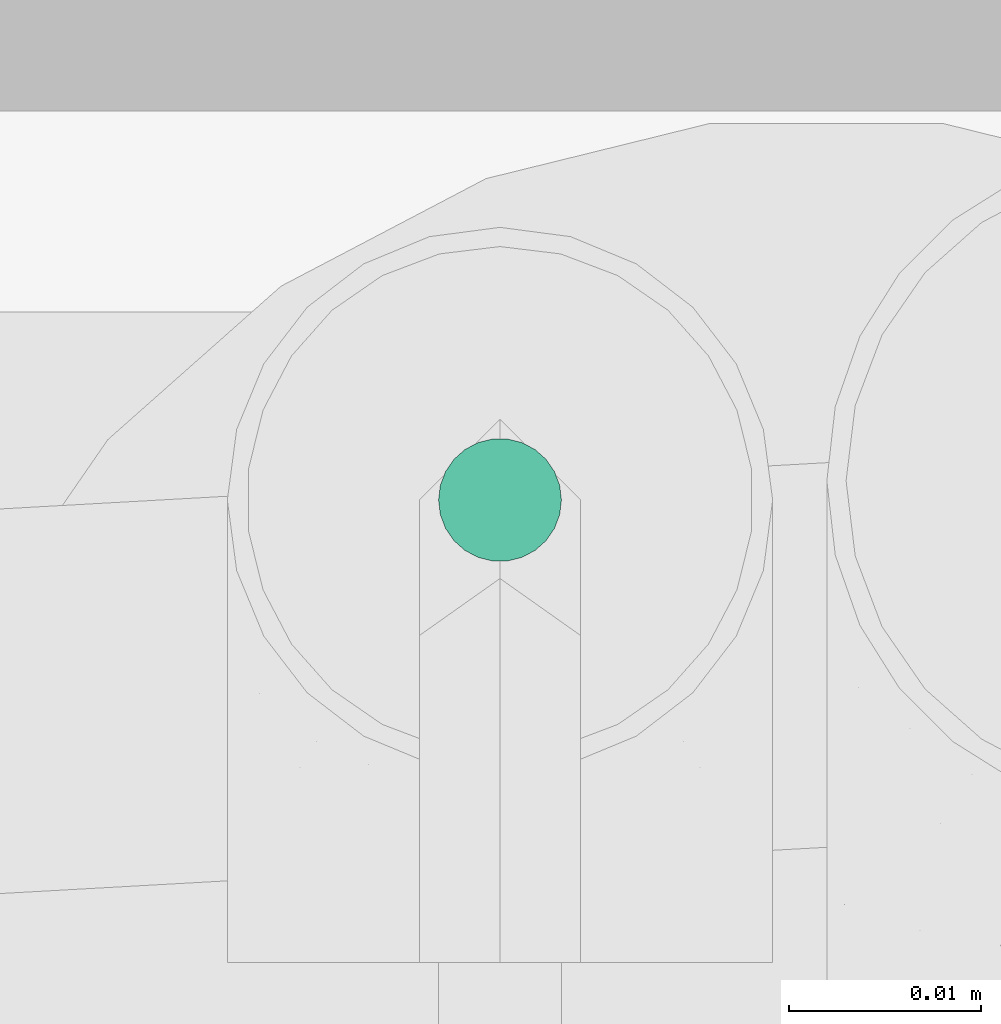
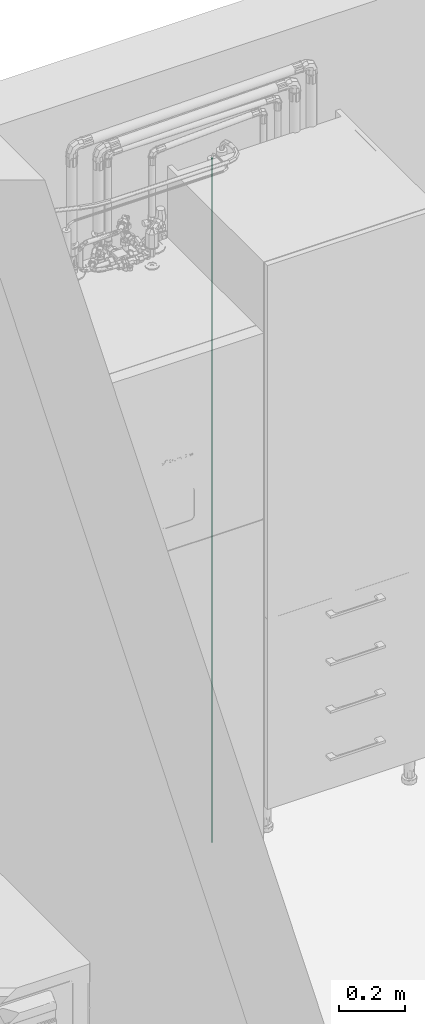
# One storey, part 16 of 30: 1 flow segment.
"""IFC2X3 building model written with IfcOpenShell, lengths in metres."""

from ifc_helpers import new_model, entity, si_unit, converted_unit, derived_unit, direction, frame, origin, origin_2d_with_axis, place, context, subcontext, project, spatial, circle, extrude, type_object, element, save


model = new_model("IFC2X3")

# Units and contexts
model_context = context("Model", 3, precision=1e-05, world=origin(), true_north=direction((6.123031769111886e-17, 1.0)))
body_context = subcontext(model_context, "Body", "Model", "MODEL_VIEW")
ifc_project = project(units=[si_unit("LENGTHUNIT", "METRE"), si_unit("AREAUNIT", "SQUARE_METRE"), si_unit("VOLUMEUNIT", "CUBIC_METRE"), converted_unit("PLANEANGLEUNIT", "DEGREE", entity("IfcPlaneAngleMeasure", 0.017453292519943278), si_unit("PLANEANGLEUNIT", "RADIAN"), dimensions=[0, 0, 0, 0, 0, 0, 0]), si_unit("MASSUNIT", "GRAM", prefix="KILO"), derived_unit("MASSDENSITYUNIT", [(si_unit("MASSUNIT", "GRAM", prefix="KILO"), 1), (si_unit("LENGTHUNIT", "METRE"), -3)]), derived_unit("IONCONCENTRATIONUNIT", [(si_unit("MASSUNIT", "GRAM", prefix="KILO"), 1), (si_unit("LENGTHUNIT", "METRE"), -3)]), derived_unit("MOMENTOFINERTIAUNIT", [(si_unit("LENGTHUNIT", "METRE"), 4)]), si_unit("TIMEUNIT", "SECOND"), si_unit("FREQUENCYUNIT", "HERTZ"), si_unit("THERMODYNAMICTEMPERATUREUNIT", "DEGREE_CELSIUS"), derived_unit("THERMALTRANSMITTANCEUNIT", [(si_unit("MASSUNIT", "GRAM", prefix="KILO"), 1), (si_unit("THERMODYNAMICTEMPERATUREUNIT", "KELVIN"), -1), (si_unit("TIMEUNIT", "SECOND"), -3)]), derived_unit("THERMALCONDUCTANCEUNIT", [(si_unit("MASSUNIT", "GRAM", prefix="KILO"), 1), (si_unit("THERMODYNAMICTEMPERATUREUNIT", "KELVIN"), -1), (si_unit("TIMEUNIT", "SECOND"), -3), (si_unit("LENGTHUNIT", "METRE"), 1)]), derived_unit("VOLUMETRICFLOWRATEUNIT", [(si_unit("LENGTHUNIT", "METRE", prefix="DECI"), 3), (si_unit("TIMEUNIT", "SECOND"), -1)]), derived_unit("MASSFLOWRATEUNIT", [(si_unit("MASSUNIT", "GRAM", prefix="KILO"), 1), (si_unit("TIMEUNIT", "SECOND"), -1)]), derived_unit("ROTATIONALFREQUENCYUNIT", [(si_unit("TIMEUNIT", "SECOND"), -1)]), si_unit("ELECTRICCURRENTUNIT", "AMPERE"), si_unit("ELECTRICVOLTAGEUNIT", "VOLT"), si_unit("POWERUNIT", "WATT"), si_unit("FORCEUNIT", "NEWTON", prefix="KILO"), si_unit("ILLUMINANCEUNIT", "LUX"), si_unit("LUMINOUSFLUXUNIT", "LUMEN"), si_unit("LUMINOUSINTENSITYUNIT", "CANDELA"), si_unit("ENERGYUNIT", "JOULE"), derived_unit("USERDEFINED", [(si_unit("MASSUNIT", "GRAM", prefix="KILO"), -1), (si_unit("LENGTHUNIT", "METRE"), -2), (si_unit("TIMEUNIT", "SECOND"), 3), (si_unit("LUMINOUSFLUXUNIT", "LUMEN"), 1)]), derived_unit("USERDEFINED", [(si_unit("MASSUNIT", "GRAM", prefix="KILO"), 1), (si_unit("TIMEUNIT", "SECOND"), -3), (si_unit("LENGTHUNIT", "METRE"), 3), (si_unit("ELECTRICCURRENTUNIT", "AMPERE"), -2)]), derived_unit("SOUNDPOWERUNIT", [(si_unit("MASSUNIT", "GRAM", prefix="KILO"), 1), (si_unit("TIMEUNIT", "SECOND"), -3), (si_unit("LENGTHUNIT", "METRE"), 2)]), derived_unit("SOUNDPRESSUREUNIT", [(si_unit("MASSUNIT", "GRAM", prefix="KILO"), 1), (si_unit("LENGTHUNIT", "METRE"), -1), (si_unit("TIMEUNIT", "SECOND"), -2)]), derived_unit("LINEARVELOCITYUNIT", [(si_unit("LENGTHUNIT", "METRE"), 1), (si_unit("TIMEUNIT", "SECOND"), -1)]), si_unit("PRESSUREUNIT", "PASCAL"), derived_unit("USERDEFINED", [(si_unit("MASSUNIT", "GRAM", prefix="KILO"), 1), (si_unit("LENGTHUNIT", "METRE"), -2), (si_unit("TIMEUNIT", "SECOND"), -2)]), derived_unit("LINEARFORCEUNIT", [(si_unit("MASSUNIT", "GRAM", prefix="KILO"), 1), (si_unit("TIMEUNIT", "SECOND"), -2)]), derived_unit("PLANARFORCEUNIT", [(si_unit("MASSUNIT", "GRAM", prefix="KILO"), 1), (si_unit("LENGTHUNIT", "METRE"), -1), (si_unit("TIMEUNIT", "SECOND"), -2)]), derived_unit("SPECIFICHEATCAPACITYUNIT", [(si_unit("THERMODYNAMICTEMPERATUREUNIT", "KELVIN"), -1), (si_unit("LENGTHUNIT", "METRE"), 2), (si_unit("TIMEUNIT", "SECOND"), -2)]), derived_unit("HEATFLUXDENSITYUNIT", [(si_unit("MASSUNIT", "GRAM", prefix="KILO"), 1), (si_unit("TIMEUNIT", "SECOND"), -3)]), derived_unit("HEATINGVALUEUNIT", [(si_unit("LENGTHUNIT", "METRE"), 2), (si_unit("TIMEUNIT", "SECOND"), -2)]), derived_unit("VAPORPERMEABILITYUNIT", [(si_unit("LENGTHUNIT", "METRE"), -1), (si_unit("TIMEUNIT", "SECOND"), 1)]), derived_unit("DYNAMICVISCOSITYUNIT", [(si_unit("MASSUNIT", "GRAM", prefix="KILO"), 1), (si_unit("TIMEUNIT", "SECOND"), -1), (si_unit("LENGTHUNIT", "METRE"), -1)]), derived_unit("THERMALEXPANSIONCOEFFICIENTUNIT", [(si_unit("THERMODYNAMICTEMPERATUREUNIT", "KELVIN"), -1)]), derived_unit("MODULUSOFELASTICITYUNIT", [(si_unit("MASSUNIT", "GRAM", prefix="KILO"), 1), (si_unit("LENGTHUNIT", "METRE"), -1), (si_unit("TIMEUNIT", "SECOND"), -2)]), derived_unit("ISOTHERMALMOISTURECAPACITYUNIT", [(si_unit("MASSUNIT", "GRAM", prefix="KILO"), -1), (si_unit("LENGTHUNIT", "METRE"), 3)]), derived_unit("MOISTUREDIFFUSIVITYUNIT", [(si_unit("TIMEUNIT", "SECOND"), -1), (si_unit("LENGTHUNIT", "METRE"), 2)]), derived_unit("MASSPERLENGTHUNIT", [(si_unit("MASSUNIT", "GRAM", prefix="KILO"), 1), (si_unit("LENGTHUNIT", "METRE"), -1)]), derived_unit("THERMALRESISTANCEUNIT", [(si_unit("MASSUNIT", "GRAM", prefix="KILO"), -1), (si_unit("TIMEUNIT", "SECOND"), 3), (si_unit("THERMODYNAMICTEMPERATUREUNIT", "KELVIN"), 1)]), derived_unit("ACCELERATIONUNIT", [(si_unit("LENGTHUNIT", "METRE"), 1), (si_unit("TIMEUNIT", "SECOND"), -2)]), derived_unit("ANGULARVELOCITYUNIT", [(si_unit("TIMEUNIT", "SECOND"), -1), (si_unit("PLANEANGLEUNIT", "RADIAN"), 1)]), derived_unit("LINEARSTIFFNESSUNIT", [(si_unit("MASSUNIT", "GRAM", prefix="KILO"), 1), (si_unit("TIMEUNIT", "SECOND"), -2)]), derived_unit("WARPINGCONSTANTUNIT", [(si_unit("LENGTHUNIT", "METRE"), 6)]), derived_unit("LINEARMOMENTUNIT", [(si_unit("MASSUNIT", "GRAM", prefix="KILO"), 1), (si_unit("LENGTHUNIT", "METRE"), 1), (si_unit("TIMEUNIT", "SECOND"), -2)]), derived_unit("TORQUEUNIT", [(si_unit("MASSUNIT", "GRAM", prefix="KILO"), 1), (si_unit("LENGTHUNIT", "METRE"), 2), (si_unit("TIMEUNIT", "SECOND"), -2)])], contexts=[model_context])

# Site, building, storey
site_placement = place(None, origin())
site = spatial("IfcSite", under=ifc_project, at=site_placement, Name="Default", CompositionType="ELEMENT")
building_placement = place(site_placement, origin())
building = spatial("IfcBuilding", under=site, at=building_placement, CompositionType="ELEMENT")
storey_placement = place(building_placement, origin())
storey = spatial("IfcBuildingStorey", under=building, at=storey_placement, Name="Niveau 0", CompositionType="ELEMENT", Elevation=-1.949160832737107e-14)

# Flow segment
pipe_segment_type = type_object("IfcPipeSegmentType", Name="Canalisation:Cuivre Frigo", PredefinedType="NOTDEFINED")
flow_segment_placement = place(storey_placement, origin())
element("IfcFlowSegment", 1, at=flow_segment_placement, inside=storey, type_object=pipe_segment_type, Name="Canalisation:Cuivre Frigo", ObjectType="Canalisation:Cuivre Frigo", context=body_context, shape_type="SweptSolid", body=[
    extrude(circle(Radius=0.0032, at=origin_2d_with_axis()), frame((-19.86316439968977, 2.8482764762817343, -0.37589999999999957), z_axis=(0.0, 0.0, 1.0), x_axis=(-1.0, 0.0, 0.0)), (0.0, 0.0, 1.0), 2.5138885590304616),
])

save(model, "model.ifc")
